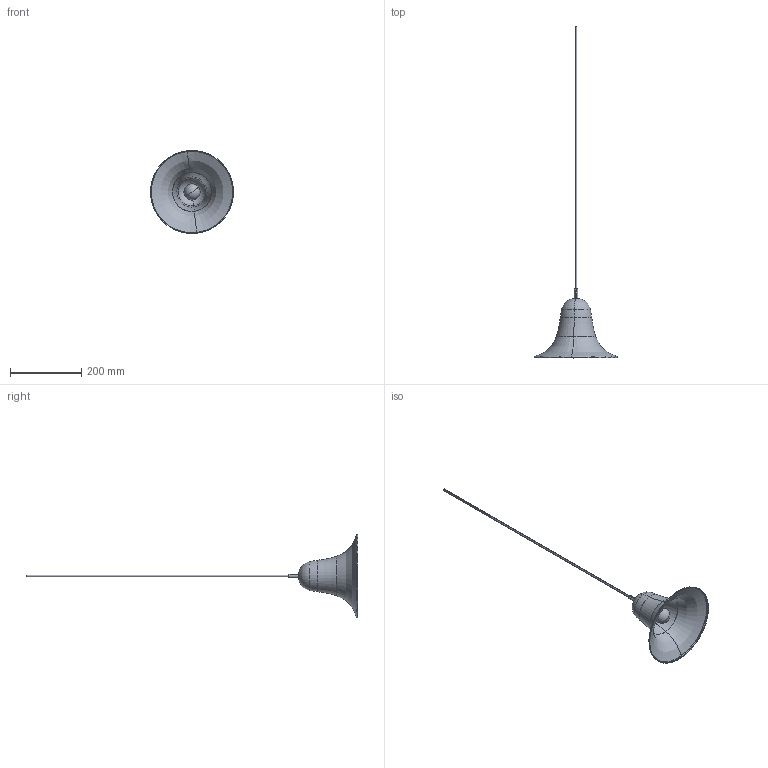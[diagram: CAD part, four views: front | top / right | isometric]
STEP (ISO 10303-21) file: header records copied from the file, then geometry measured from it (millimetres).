
FILE_DESCRIPTION (( 'STEP AP214' ), '1' );
FILE_NAME ('Verpan pendant ø23,3cm.STEP', '2020-10-01T07:00:13', ( '' ), ( '' ), 'SwSTEP 2.0', 'SolidWorks 2020', '' );
FILE_SCHEMA (( 'AUTOMOTIVE_DESIGN' ));
Length unit declared in the file: millimetre
Products named in the file (10): pantop  shade ø23,3cm; Verpan pendant ø23,3cm; aflaster og r鷨; E14 socket+wire+bulb; 70310 E14 Socket insert, TP FPL; (70128) Black cable, 1 m; 70311 E14 plain outer shell TP FPL, sort; E14 bulb dummy; 70360 E14 Socket bottom, black, grounded TP FPL; E14 socket black plain TP FPL, 70320+70310+70311+381034
Assembly tree (9 placements, depth 4):
  Verpan pendant ø23,3cm
    E14 socket+wire+bulb
      E14 socket black plain TP FPL, 70320+70310+70311+381034
        70310 E14 Socket insert, TP FPL
        70311 E14 plain outer shell TP FPL, sort
        70360 E14 Socket bottom, black, grounded TP FPL
      (70128) Black cable, 1 m
      E14 bulb dummy
    aflaster og r鷨
    pantop  shade ø23,3cm
Bounding box: 232.62 x 928.95 x 232.62 mm (x, y, z)
Volume: 165724.3 mm3; surface area: 189787.1 mm2
Topology: 10 solids, 10 shells, 568 faces, 1576 edges, 1039 vertices
Faces by surface type: bspline 404, cylinder 67, plane 63, torus 28, cone 6
Entity records: 25596 total; most frequent: CARTESIAN_POINT 13097, ORIENTED_EDGE 3148, EDGE_CURVE 1574, DIRECTION 1281, VERTEX_POINT 1039, B_SPLINE_CURVE_WITH_KNOTS 825, EDGE_LOOP 599, VECTOR 569
